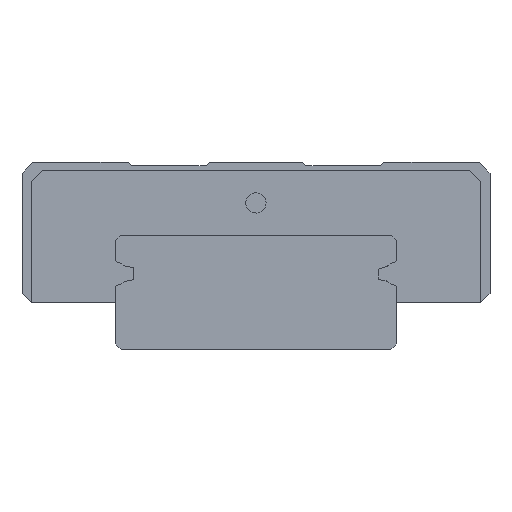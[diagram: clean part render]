
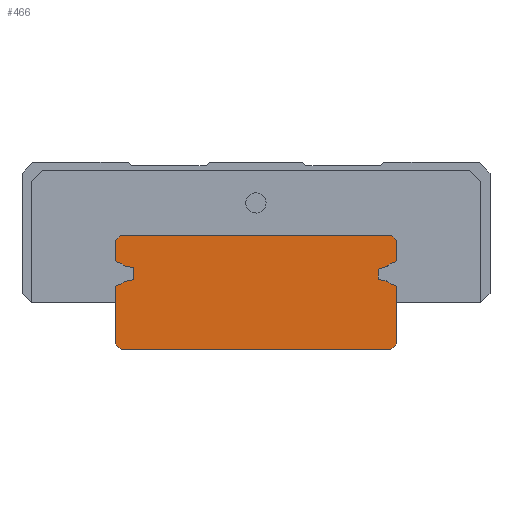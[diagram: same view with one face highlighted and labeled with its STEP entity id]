
A CAD part, front view. The second image highlights one B-rep face of the part: STEP entity #466.
In plain terms, the highlighted planar face has unit normal (0, -1, 0).
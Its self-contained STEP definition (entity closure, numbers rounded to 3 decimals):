
#291=CIRCLE('',#2721,0.15);
#293=CIRCLE('',#2724,0.75);
#295=CIRCLE('',#2727,0.3);
#297=CIRCLE('',#2731,0.1);
#299=CIRCLE('',#2735,0.1);
#301=CIRCLE('',#2739,0.3);
#303=CIRCLE('',#2742,0.75);
#305=CIRCLE('',#2745,0.15);
#324=CIRCLE('',#2770,0.15);
#326=CIRCLE('',#2773,0.75);
#328=CIRCLE('',#2776,0.3);
#330=CIRCLE('',#2780,0.1);
#332=CIRCLE('',#2784,0.1);
#334=CIRCLE('',#2788,0.3);
#336=CIRCLE('',#2791,0.75);
#338=CIRCLE('',#2794,0.15);
#466=ADVANCED_FACE('',(#702),#607,.F.);
#607=PLANE('',#2817);
#702=FACE_OUTER_BOUND('',#828,.T.);
#828=EDGE_LOOP('',(#1203,#1204,#1205,#1206,#1207,#1208,#1209,#1210,#1211,
#1212,#1213,#1214,#1215,#1216,#1217,#1218,#1219,#1220,#1221,#1222,#1223,
#1224,#1225,#1226,#1227,#1228,#1229,#1230,#1231,#1232,#1233,#1234));
#1203=ORIENTED_EDGE('',*,*,#2093,.F.);
#1204=ORIENTED_EDGE('',*,*,#2097,.T.);
#1205=ORIENTED_EDGE('',*,*,#2071,.F.);
#1206=ORIENTED_EDGE('',*,*,#2068,.F.);
#1207=ORIENTED_EDGE('',*,*,#2065,.F.);
#1208=ORIENTED_EDGE('',*,*,#2062,.F.);
#1209=ORIENTED_EDGE('',*,*,#2059,.F.);
#1210=ORIENTED_EDGE('',*,*,#2056,.F.);
#1211=ORIENTED_EDGE('',*,*,#2053,.F.);
#1212=ORIENTED_EDGE('',*,*,#2050,.F.);
#1213=ORIENTED_EDGE('',*,*,#2047,.F.);
#1214=ORIENTED_EDGE('',*,*,#2044,.F.);
#1215=ORIENTED_EDGE('',*,*,#2041,.F.);
#1216=ORIENTED_EDGE('',*,*,#2038,.F.);
#1217=ORIENTED_EDGE('',*,*,#2035,.F.);
#1218=ORIENTED_EDGE('',*,*,#2032,.F.);
#1219=ORIENTED_EDGE('',*,*,#2029,.F.);
#1220=ORIENTED_EDGE('',*,*,#2009,.F.);
#1221=ORIENTED_EDGE('',*,*,#2006,.F.);
#1222=ORIENTED_EDGE('',*,*,#2003,.F.);
#1223=ORIENTED_EDGE('',*,*,#2000,.F.);
#1224=ORIENTED_EDGE('',*,*,#1997,.F.);
#1225=ORIENTED_EDGE('',*,*,#1994,.F.);
#1226=ORIENTED_EDGE('',*,*,#1991,.F.);
#1227=ORIENTED_EDGE('',*,*,#1988,.F.);
#1228=ORIENTED_EDGE('',*,*,#1985,.F.);
#1229=ORIENTED_EDGE('',*,*,#1982,.F.);
#1230=ORIENTED_EDGE('',*,*,#1979,.F.);
#1231=ORIENTED_EDGE('',*,*,#1976,.F.);
#1232=ORIENTED_EDGE('',*,*,#1973,.F.);
#1233=ORIENTED_EDGE('',*,*,#1971,.F.);
#1234=ORIENTED_EDGE('',*,*,#2098,.T.);
#1711=VERTEX_POINT('',#3832);
#1712=VERTEX_POINT('',#3834);
#1713=VERTEX_POINT('',#3838);
#1715=VERTEX_POINT('',#3844);
#1717=VERTEX_POINT('',#3850);
#1719=VERTEX_POINT('',#3856);
#1721=VERTEX_POINT('',#3862);
#1723=VERTEX_POINT('',#3868);
#1725=VERTEX_POINT('',#3874);
#1727=VERTEX_POINT('',#3880);
#1729=VERTEX_POINT('',#3886);
#1731=VERTEX_POINT('',#3892);
#1733=VERTEX_POINT('',#3898);
#1735=VERTEX_POINT('',#3904);
#1737=VERTEX_POINT('',#3910);
#1756=VERTEX_POINT('',#3950);
#1758=VERTEX_POINT('',#3956);
#1760=VERTEX_POINT('',#3962);
#1762=VERTEX_POINT('',#3968);
#1764=VERTEX_POINT('',#3974);
#1766=VERTEX_POINT('',#3980);
#1768=VERTEX_POINT('',#3986);
#1770=VERTEX_POINT('',#3992);
#1772=VERTEX_POINT('',#3998);
#1774=VERTEX_POINT('',#4004);
#1776=VERTEX_POINT('',#4010);
#1778=VERTEX_POINT('',#4016);
#1780=VERTEX_POINT('',#4022);
#1782=VERTEX_POINT('',#4028);
#1784=VERTEX_POINT('',#4034);
#1805=VERTEX_POINT('',#4077);
#1806=VERTEX_POINT('',#4079);
#1971=EDGE_CURVE('',#1711,#1712,#2317,.T.);
#1973=EDGE_CURVE('',#1712,#1713,#291,.T.);
#1976=EDGE_CURVE('',#1713,#1715,#293,.T.);
#1979=EDGE_CURVE('',#1715,#1717,#295,.T.);
#1982=EDGE_CURVE('',#1717,#1719,#2322,.T.);
#1985=EDGE_CURVE('',#1719,#1721,#297,.T.);
#1988=EDGE_CURVE('',#1721,#1723,#2326,.T.);
#1991=EDGE_CURVE('',#1723,#1725,#299,.T.);
#1994=EDGE_CURVE('',#1725,#1727,#2330,.T.);
#1997=EDGE_CURVE('',#1727,#1729,#301,.T.);
#2000=EDGE_CURVE('',#1729,#1731,#303,.T.);
#2003=EDGE_CURVE('',#1731,#1733,#305,.T.);
#2006=EDGE_CURVE('',#1733,#1735,#2336,.T.);
#2009=EDGE_CURVE('',#1735,#1737,#2339,.T.);
#2029=EDGE_CURVE('',#1737,#1756,#2342,.T.);
#2032=EDGE_CURVE('',#1756,#1758,#2345,.T.);
#2035=EDGE_CURVE('',#1758,#1760,#2348,.T.);
#2038=EDGE_CURVE('',#1760,#1762,#324,.T.);
#2041=EDGE_CURVE('',#1762,#1764,#326,.T.);
#2044=EDGE_CURVE('',#1764,#1766,#328,.T.);
#2047=EDGE_CURVE('',#1766,#1768,#2354,.T.);
#2050=EDGE_CURVE('',#1768,#1770,#330,.T.);
#2053=EDGE_CURVE('',#1770,#1772,#2358,.T.);
#2056=EDGE_CURVE('',#1772,#1774,#332,.T.);
#2059=EDGE_CURVE('',#1774,#1776,#2362,.T.);
#2062=EDGE_CURVE('',#1776,#1778,#334,.T.);
#2065=EDGE_CURVE('',#1778,#1780,#336,.T.);
#2068=EDGE_CURVE('',#1780,#1782,#338,.T.);
#2071=EDGE_CURVE('',#1782,#1784,#2368,.T.);
#2093=EDGE_CURVE('',#1805,#1806,#2373,.T.);
#2097=EDGE_CURVE('',#1805,#1784,#2377,.T.);
#2098=EDGE_CURVE('',#1711,#1806,#2378,.T.);
#2317=LINE('',#3833,#2519);
#2322=LINE('',#3855,#2524);
#2326=LINE('',#3867,#2528);
#2330=LINE('',#3879,#2532);
#2336=LINE('',#3903,#2538);
#2339=LINE('',#3909,#2541);
#2342=LINE('',#3949,#2544);
#2345=LINE('',#3955,#2547);
#2348=LINE('',#3961,#2550);
#2354=LINE('',#3985,#2556);
#2358=LINE('',#3997,#2560);
#2362=LINE('',#4009,#2564);
#2368=LINE('',#4033,#2570);
#2373=LINE('',#4078,#2575);
#2377=LINE('',#4085,#2579);
#2378=LINE('',#4086,#2580);
#2519=VECTOR('',#3025,1.);
#2524=VECTOR('',#3050,1.);
#2528=VECTOR('',#3062,1.);
#2532=VECTOR('',#3074,1.);
#2538=VECTOR('',#3100,1.);
#2541=VECTOR('',#3105,1.);
#2544=VECTOR('',#3144,1.);
#2547=VECTOR('',#3149,1.);
#2550=VECTOR('',#3154,1.);
#2556=VECTOR('',#3180,1.);
#2560=VECTOR('',#3192,1.);
#2564=VECTOR('',#3204,1.);
#2570=VECTOR('',#3230,1.);
#2575=VECTOR('',#3271,1.);
#2579=VECTOR('',#3279,1.);
#2580=VECTOR('',#3280,1.);
#2721=AXIS2_PLACEMENT_3D('',#3837,#3029,#3030);
#2724=AXIS2_PLACEMENT_3D('',#3843,#3036,#3037);
#2727=AXIS2_PLACEMENT_3D('',#3849,#3043,#3044);
#2731=AXIS2_PLACEMENT_3D('',#3861,#3055,#3056);
#2735=AXIS2_PLACEMENT_3D('',#3873,#3067,#3068);
#2739=AXIS2_PLACEMENT_3D('',#3885,#3079,#3080);
#2742=AXIS2_PLACEMENT_3D('',#3891,#3086,#3087);
#2745=AXIS2_PLACEMENT_3D('',#3897,#3093,#3094);
#2770=AXIS2_PLACEMENT_3D('',#3967,#3159,#3160);
#2773=AXIS2_PLACEMENT_3D('',#3973,#3166,#3167);
#2776=AXIS2_PLACEMENT_3D('',#3979,#3173,#3174);
#2780=AXIS2_PLACEMENT_3D('',#3991,#3185,#3186);
#2784=AXIS2_PLACEMENT_3D('',#4003,#3197,#3198);
#2788=AXIS2_PLACEMENT_3D('',#4015,#3209,#3210);
#2791=AXIS2_PLACEMENT_3D('',#4021,#3216,#3217);
#2794=AXIS2_PLACEMENT_3D('',#4027,#3223,#3224);
#2817=AXIS2_PLACEMENT_3D('',#4087,#3281,#3282);
#3025=DIRECTION('',(0.,0.,1.));
#3029=DIRECTION('',(0.,1.,0.));
#3030=DIRECTION('',(1.,0.,0.));
#3036=DIRECTION('',(0.,-1.,0.));
#3037=DIRECTION('',(1.,0.,0.));
#3043=DIRECTION('',(0.,1.,0.));
#3044=DIRECTION('',(1.,0.,0.));
#3050=DIRECTION('',(0.985,0.,0.174));
#3055=DIRECTION('',(0.,-1.,0.));
#3056=DIRECTION('',(1.,0.,0.));
#3062=DIRECTION('',(0.,0.,1.));
#3067=DIRECTION('',(0.,-1.,0.));
#3068=DIRECTION('',(1.,0.,0.));
#3074=DIRECTION('',(-0.985,0.,0.174));
#3079=DIRECTION('',(0.,1.,0.));
#3080=DIRECTION('',(1.,0.,0.));
#3086=DIRECTION('',(0.,-1.,0.));
#3087=DIRECTION('',(1.,0.,0.));
#3093=DIRECTION('',(0.,1.,0.));
#3094=DIRECTION('',(1.,0.,0.));
#3100=DIRECTION('',(0.,0.,1.));
#3105=DIRECTION('',(0.707,0.,0.707));
#3144=DIRECTION('',(1.,0.,0.));
#3149=DIRECTION('',(0.707,0.,-0.707));
#3154=DIRECTION('',(0.,0.,-1.));
#3159=DIRECTION('',(0.,1.,0.));
#3160=DIRECTION('',(1.,0.,0.));
#3166=DIRECTION('',(0.,-1.,0.));
#3167=DIRECTION('',(1.,0.,0.));
#3173=DIRECTION('',(0.,1.,0.));
#3174=DIRECTION('',(1.,0.,0.));
#3180=DIRECTION('',(-0.951,0.,-0.309));
#3185=DIRECTION('',(0.,-1.,0.));
#3186=DIRECTION('',(1.,0.,0.));
#3192=DIRECTION('',(0.,0.,-1.));
#3197=DIRECTION('',(0.,-1.,0.));
#3198=DIRECTION('',(1.,0.,0.));
#3204=DIRECTION('',(0.981,0.,-0.192));
#3209=DIRECTION('',(0.,1.,0.));
#3210=DIRECTION('',(1.,0.,0.));
#3216=DIRECTION('',(0.,-1.,0.));
#3217=DIRECTION('',(1.,0.,0.));
#3223=DIRECTION('',(0.,1.,0.));
#3224=DIRECTION('',(1.,0.,0.));
#3230=DIRECTION('',(0.,0.,-1.));
#3271=DIRECTION('',(-1.,0.,0.));
#3279=DIRECTION('',(0.707,0.,0.707));
#3280=DIRECTION('',(0.707,0.,-0.707));
#3281=DIRECTION('',(0.,1.,0.));
#3282=DIRECTION('',(0.,0.,1.));
#3832=CARTESIAN_POINT('',(-9.,0.,0.36));
#3833=CARTESIAN_POINT('',(-9.,0.,0.));
#3834=CARTESIAN_POINT('',(-9.,0.,3.979));
#3837=CARTESIAN_POINT('',(-8.85,0.,3.979));
#3838=CARTESIAN_POINT('',(-8.875,0.,4.127));
#3843=CARTESIAN_POINT('',(-9.,0.,4.867));
#3844=CARTESIAN_POINT('',(-8.486,0.,4.32));
#3849=CARTESIAN_POINT('',(-8.281,0.,4.102));
#3850=CARTESIAN_POINT('',(-8.333,0.,4.397));
#3855=CARTESIAN_POINT('',(-8.333,0.,4.397));
#3856=CARTESIAN_POINT('',(-7.909,0.,4.472));
#3861=CARTESIAN_POINT('',(-7.926,0.,4.57));
#3862=CARTESIAN_POINT('',(-7.826,0.,4.57));
#3867=CARTESIAN_POINT('',(-7.826,0.,4.57));
#3868=CARTESIAN_POINT('',(-7.826,0.,5.163));
#3873=CARTESIAN_POINT('',(-7.926,0.,5.163));
#3874=CARTESIAN_POINT('',(-7.909,0.,5.262));
#3879=CARTESIAN_POINT('',(-7.909,0.,5.262));
#3880=CARTESIAN_POINT('',(-8.333,0.,5.336));
#3885=CARTESIAN_POINT('',(-8.281,0.,5.632));
#3886=CARTESIAN_POINT('',(-8.486,0.,5.413));
#3891=CARTESIAN_POINT('',(-9.,0.,4.867));
#3892=CARTESIAN_POINT('',(-8.875,0.,5.606));
#3897=CARTESIAN_POINT('',(-8.85,0.,5.754));
#3898=CARTESIAN_POINT('',(-9.,0.,5.754));
#3903=CARTESIAN_POINT('',(-9.,0.,5.754));
#3904=CARTESIAN_POINT('',(-9.,0.,7.));
#3909=CARTESIAN_POINT('',(-9.,0.,7.));
#3910=CARTESIAN_POINT('',(-8.7,0.,7.3));
#3949=CARTESIAN_POINT('',(-8.7,0.,7.3));
#3950=CARTESIAN_POINT('',(8.7,0.,7.3));
#3955=CARTESIAN_POINT('',(8.7,0.,7.3));
#3956=CARTESIAN_POINT('',(9.,0.,7.));
#3961=CARTESIAN_POINT('',(9.,0.,7.));
#3962=CARTESIAN_POINT('',(9.,0.,5.754));
#3967=CARTESIAN_POINT('',(8.85,0.,5.754));
#3968=CARTESIAN_POINT('',(8.875,0.,5.606));
#3973=CARTESIAN_POINT('',(9.,0.,4.867));
#3974=CARTESIAN_POINT('',(8.474,0.,5.401));
#3979=CARTESIAN_POINT('',(8.263,0.,5.615));
#3980=CARTESIAN_POINT('',(8.356,0.,5.329));
#3985=CARTESIAN_POINT('',(8.356,0.,5.329));
#3986=CARTESIAN_POINT('',(7.895,0.,5.18));
#3991=CARTESIAN_POINT('',(7.926,0.,5.085));
#3992=CARTESIAN_POINT('',(7.826,0.,5.085));
#3997=CARTESIAN_POINT('',(7.826,0.,5.085));
#3998=CARTESIAN_POINT('',(7.826,0.,4.58));
#4003=CARTESIAN_POINT('',(7.926,0.,4.58));
#4004=CARTESIAN_POINT('',(7.907,0.,4.482));
#4009=CARTESIAN_POINT('',(7.907,0.,4.482));
#4010=CARTESIAN_POINT('',(8.336,0.,4.398));
#4015=CARTESIAN_POINT('',(8.278,0.,4.104));
#4016=CARTESIAN_POINT('',(8.485,0.,4.322));
#4021=CARTESIAN_POINT('',(9.,0.,4.867));
#4022=CARTESIAN_POINT('',(8.875,0.,4.127));
#4027=CARTESIAN_POINT('',(8.85,0.,3.979));
#4028=CARTESIAN_POINT('',(9.,0.,3.979));
#4033=CARTESIAN_POINT('',(9.,0.,3.979));
#4034=CARTESIAN_POINT('',(9.,0.,0.36));
#4077=CARTESIAN_POINT('',(8.64,0.,0.));
#4078=CARTESIAN_POINT('',(9.,0.,0.));
#4079=CARTESIAN_POINT('',(-8.64,0.,0.));
#4085=CARTESIAN_POINT('',(8.64,0.,0.));
#4086=CARTESIAN_POINT('',(-9.,0.,0.36));
#4087=CARTESIAN_POINT('',(-8.85,0.,3.979));
